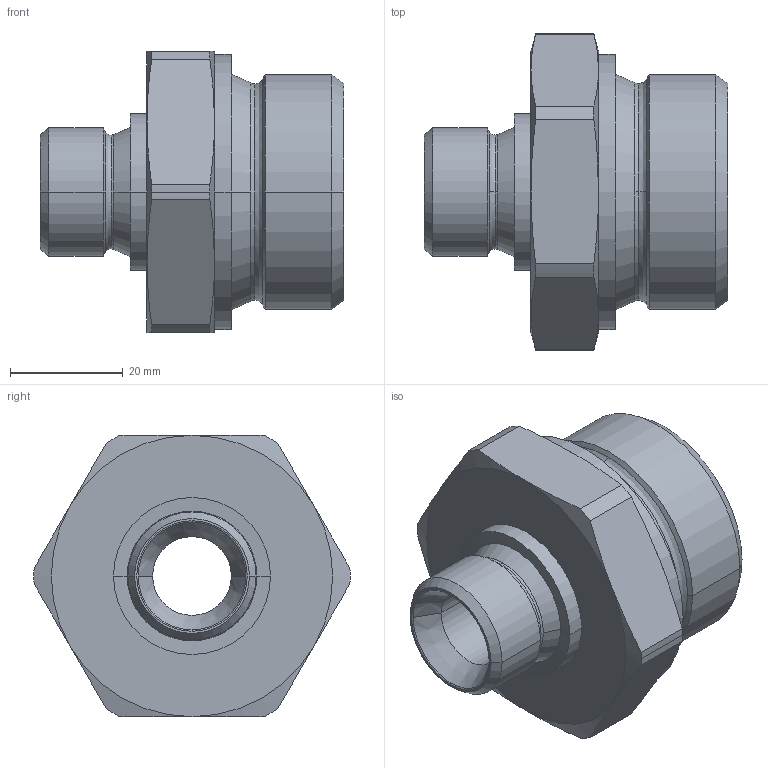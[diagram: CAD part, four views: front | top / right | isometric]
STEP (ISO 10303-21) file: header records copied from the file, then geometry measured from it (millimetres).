
FILE_DESCRIPTION((''),'2;1');
FILE_NAME('300539.stp','2006-09-11T08:17:43',(''),(''),'AutoCAD STEP 2000i','AutoCAD 2000i',', , ');
FILE_SCHEMA(('CONFIG_CONTROL_DESIGN'));
Length unit declared in the file: millimetre
Products named in the file (2): 300539.0; CHIAVE SMUSSATA#0
Assembly tree (1 placements, depth 2):
  300539.0
    CHIAVE SMUSSATA#0
Bounding box: 54 x 56.2 x 50 mm (x, y, z)
Volume: 41489.6 mm3; surface area: 13631.9 mm2
Topology: 1 solids, 1 shells, 76 faces, 178 edges, 106 vertices
Faces by surface type: cone 34, cylinder 20, plane 10, bspline 8, torus 4
Entity records: 2593 total; most frequent: CARTESIAN_POINT 762, DIRECTION 400, ORIENTED_EDGE 356, EDGE_CURVE 178, AXIS2_PLACEMENT_3D 176, VERTEX_POINT 106, CIRCLE 106, EDGE_LOOP 80
